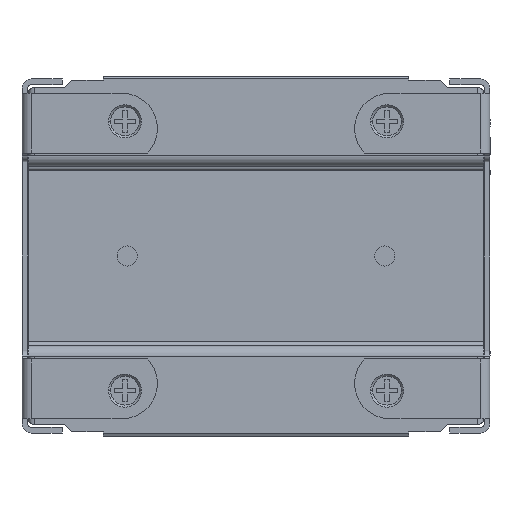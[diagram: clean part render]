
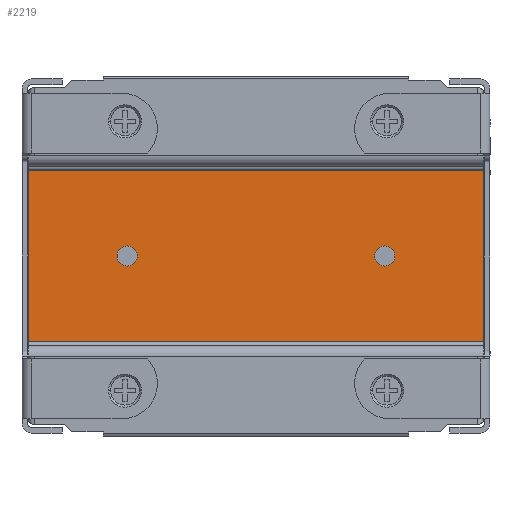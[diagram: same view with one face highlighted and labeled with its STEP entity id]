
A CAD part, front view. The second image highlights one B-rep face of the part: STEP entity #2219.
In plain terms, the highlighted planar face has unit normal (0, -1, 0).
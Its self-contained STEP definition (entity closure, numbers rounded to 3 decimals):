
#2198 = EDGE_LOOP ( 'NONE', ( #2199, #2201 ) ) ;
#2199 = ORIENTED_EDGE ( 'NONE', *, *, #2200, .T. ) ;
#2200 = EDGE_CURVE ( 'NONE', #5195, #5194, #29891, .T. ) ;
#2201 = ORIENTED_EDGE ( 'NONE', *, *, #5193, .T. ) ;
#2202 = EDGE_LOOP ( 'NONE', ( #2203, #2204, #2206, #2207 ) ) ;
#2203 = ORIENTED_EDGE ( 'NONE', *, *, #5445, .T. ) ;
#2204 = ORIENTED_EDGE ( 'NONE', *, *, #2205, .T. ) ;
#2205 = EDGE_CURVE ( 'NONE', #5465, #4995, #29886, .T. ) ;
#2206 = ORIENTED_EDGE ( 'NONE', *, *, #5069, .T. ) ;
#2207 = ORIENTED_EDGE ( 'NONE', *, *, #2208, .T. ) ;
#2208 = EDGE_CURVE ( 'NONE', #5019, #5446, #29882, .T. ) ;
#2219 = ADVANCED_FACE ( 'NONE', ( #29866, #29865, #29864 ), #29871, .F. ) ;
#2220 = EDGE_LOOP ( 'NONE', ( #2272, #2274 ) ) ;
#2272 = ORIENTED_EDGE ( 'NONE', *, *, #2273, .T. ) ;
#2273 = EDGE_CURVE ( 'NONE', #5197, #5080, #29959, .T. ) ;
#2274 = ORIENTED_EDGE ( 'NONE', *, *, #5163, .T. ) ;
#4995 = VERTEX_POINT ( 'NONE', #23731 ) ;
#5019 = VERTEX_POINT ( 'NONE', #23832 ) ;
#5069 = EDGE_CURVE ( 'NONE', #4995, #5019, #23961, .T. ) ;
#5080 = VERTEX_POINT ( 'NONE', #23999 ) ;
#5163 = EDGE_CURVE ( 'NONE', #5080, #5197, #24281, .T. ) ;
#5193 = EDGE_CURVE ( 'NONE', #5194, #5195, #24341, .T. ) ;
#5194 = VERTEX_POINT ( 'NONE', #24336 ) ;
#5195 = VERTEX_POINT ( 'NONE', #24335 ) ;
#5197 = VERTEX_POINT ( 'NONE', #24334 ) ;
#5445 = EDGE_CURVE ( 'NONE', #5446, #5465, #24811, .T. ) ;
#5446 = VERTEX_POINT ( 'NONE', #24807 ) ;
#5465 = VERTEX_POINT ( 'NONE', #24841 ) ;
#23731 = CARTESIAN_POINT ( 'NONE',  ( -34.2, 5.2, -6.65 ) ) ;
#23832 = CARTESIAN_POINT ( 'NONE',  ( -34.2, 5.2, 6.65 ) ) ;
#23958 = DIRECTION ( 'NONE',  ( 0., 0., 1. ) ) ;
#23959 = VECTOR ( 'NONE', #23958, 1000. ) ;
#23960 = CARTESIAN_POINT ( 'NONE',  ( -34.2, 5.2, -7. ) ) ;
#23961 = LINE ( 'NONE', #23960, #23959 ) ;
#23999 = CARTESIAN_POINT ( 'NONE',  ( -41.05, 5.2, -0.7 ) ) ;
#24273 = DIRECTION ( 'NONE',  ( 0., 0., 1. ) ) ;
#24274 = DIRECTION ( 'NONE',  ( 0., 1., 0. ) ) ;
#24275 = CARTESIAN_POINT ( 'NONE',  ( -41.05, 5.2, 0. ) ) ;
#24276 = AXIS2_PLACEMENT_3D ( 'NONE', #24275, #24274, #24273 ) ;
#24281 = CIRCLE ( 'NONE', #24276, 0.7 ) ;
#24334 = CARTESIAN_POINT ( 'NONE',  ( -41.05, 5.2, 0.7 ) ) ;
#24335 = CARTESIAN_POINT ( 'NONE',  ( -58.95, 5.2, 0.7 ) ) ;
#24336 = CARTESIAN_POINT ( 'NONE',  ( -58.95, 5.2, -0.7 ) ) ;
#24337 = DIRECTION ( 'NONE',  ( 0., 0., 1. ) ) ;
#24338 = DIRECTION ( 'NONE',  ( 0., 1., 0. ) ) ;
#24339 = CARTESIAN_POINT ( 'NONE',  ( -58.95, 5.2, 0. ) ) ;
#24340 = AXIS2_PLACEMENT_3D ( 'NONE', #24339, #24338, #24337 ) ;
#24341 = CIRCLE ( 'NONE', #24340, 0.7 ) ;
#24807 = CARTESIAN_POINT ( 'NONE',  ( -65.8, 5.2, 6.65 ) ) ;
#24808 = DIRECTION ( 'NONE',  ( 0., 0., -1. ) ) ;
#24809 = VECTOR ( 'NONE', #24808, 1000. ) ;
#24810 = CARTESIAN_POINT ( 'NONE',  ( -65.8, 5.2, -7. ) ) ;
#24811 = LINE ( 'NONE', #24810, #24809 ) ;
#24841 = CARTESIAN_POINT ( 'NONE',  ( -65.8, 5.2, -6.65 ) ) ;
#29859 = DIRECTION ( 'NONE',  ( 0., 0., 1. ) ) ;
#29860 = DIRECTION ( 'NONE',  ( 0., 1., 0. ) ) ;
#29861 = CARTESIAN_POINT ( 'NONE',  ( -170., 5.2, 7. ) ) ;
#29862 = AXIS2_PLACEMENT_3D ( 'NONE', #29861, #29860, #29859 ) ;
#29864 = FACE_OUTER_BOUND ( 'NONE', #2202, .T. ) ;
#29865 = FACE_BOUND ( 'NONE', #2198, .T. ) ;
#29866 = FACE_BOUND ( 'NONE', #2220, .T. ) ;
#29871 = PLANE ( 'NONE',  #29862 ) ;
#29879 = DIRECTION ( 'NONE',  ( -1., 0., 0. ) ) ;
#29880 = VECTOR ( 'NONE', #29879, 1000. ) ;
#29881 = CARTESIAN_POINT ( 'NONE',  ( -65.8, 5.2, 6.65 ) ) ;
#29882 = LINE ( 'NONE', #29881, #29880 ) ;
#29883 = DIRECTION ( 'NONE',  ( 1., 0., 0. ) ) ;
#29884 = VECTOR ( 'NONE', #29883, 1000. ) ;
#29885 = CARTESIAN_POINT ( 'NONE',  ( -34.2, 5.2, -6.65 ) ) ;
#29886 = LINE ( 'NONE', #29885, #29884 ) ;
#29887 = DIRECTION ( 'NONE',  ( 0., 0., 1. ) ) ;
#29888 = DIRECTION ( 'NONE',  ( 0., 1., 0. ) ) ;
#29889 = CARTESIAN_POINT ( 'NONE',  ( -58.95, 5.2, 0. ) ) ;
#29890 = AXIS2_PLACEMENT_3D ( 'NONE', #29889, #29888, #29887 ) ;
#29891 = CIRCLE ( 'NONE', #29890, 0.7 ) ;
#29955 = DIRECTION ( 'NONE',  ( 0., 0., 1. ) ) ;
#29956 = DIRECTION ( 'NONE',  ( 0., 1., 0. ) ) ;
#29957 = CARTESIAN_POINT ( 'NONE',  ( -41.05, 5.2, 0. ) ) ;
#29958 = AXIS2_PLACEMENT_3D ( 'NONE', #29957, #29956, #29955 ) ;
#29959 = CIRCLE ( 'NONE', #29958, 0.7 ) ;
